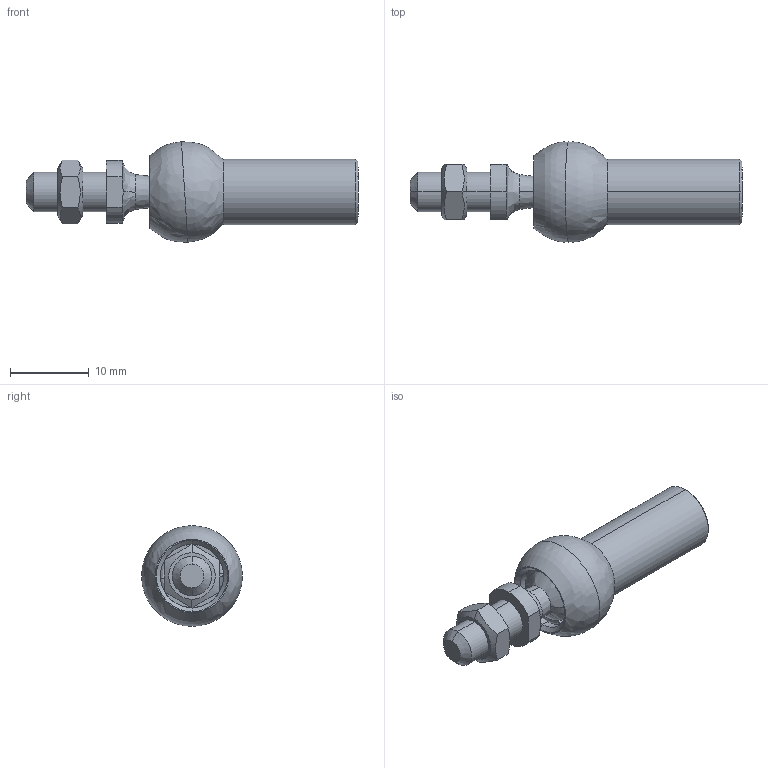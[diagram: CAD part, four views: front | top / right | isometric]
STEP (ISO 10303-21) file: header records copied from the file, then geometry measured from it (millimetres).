
FILE_DESCRIPTION (( 'STEP AP214' ), '1' );
FILE_NAME ('13.AG01.STEP', '2017-10-28T09:57:56', ( '' ), ( '' ), 'SwSTEP 2.0', 'SolidWorks 2016', '' );
FILE_SCHEMA (( 'AUTOMOTIVE_DESIGN' ));
Length unit declared in the file: millimetre
Products named in the file (1): 13.AG01
Bounding box: 42.14 x 12.8 x 12.77 mm (x, y, z)
Volume: 1948.2 mm3; surface area: 1909.3 mm2
Topology: 1 solids, 1 shells, 70 faces, 187 edges, 119 vertices
Faces by surface type: plane 20, bspline 18, cylinder 16, cone 16
Entity records: 3003 total; most frequent: CARTESIAN_POINT 1343, ORIENTED_EDGE 354, DIRECTION 327, EDGE_CURVE 177, AXIS2_PLACEMENT_3D 141, VERTEX_POINT 119, CIRCLE 88, EDGE_LOOP 80
